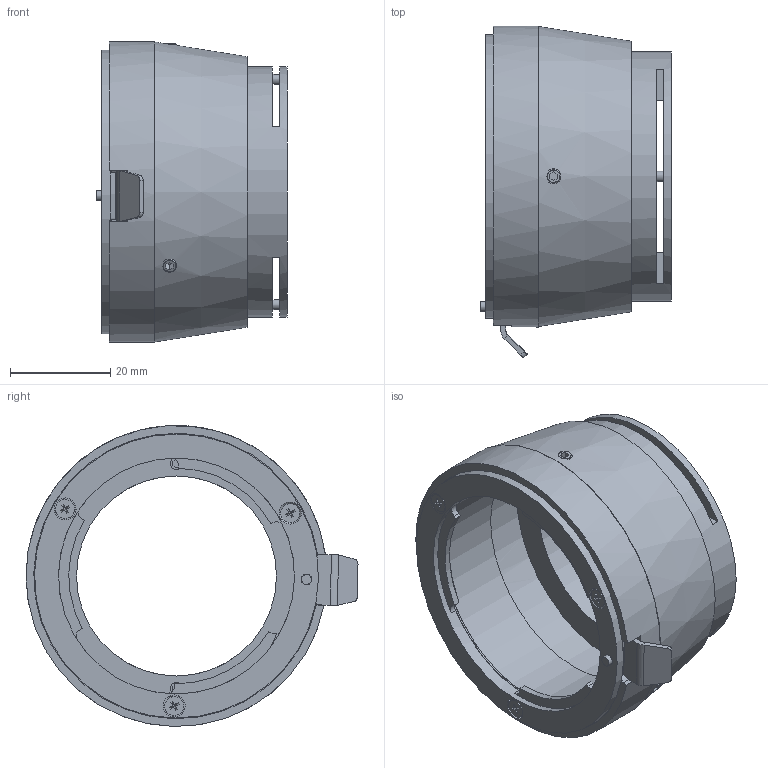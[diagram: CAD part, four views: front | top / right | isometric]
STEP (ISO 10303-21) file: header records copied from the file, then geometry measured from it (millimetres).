
FILE_DESCRIPTION(/* description */ ('F-Mount'),/* implementation_level */ '2;1');
FILE_NAME(/* name */ 'C:\Optronis\Inv\1200 Cyclone\1200-MG-03-A.stp',/* time_stamp */ '2021-09-15T10:49:52+02:00',/* author */ ('aba'),/* organization */ (''),/* preprocessor_version */ 'ST-DEVELOPER v18.1',/* originating_system */ 'Autodesk Inventor 2022',/* authorisation */ '');
FILE_SCHEMA (('CONFIG_CONTROL_DESIGN'));
Length unit declared in the file: millimetre
Products named in the file (12): 1200-MG-03-A; 1200-MD-09-A; Bower Adapter_22.04.2016; Bower Teil 3_22.04.2016; Bower F- Adapter_25.10.2016; Bower Teil 1_22.04.2016; Bower Teil 2_22.04.2016; Bower Teil 4_22.04.2016; Bower Teil 5_22.04.2016; 965 M2x4; 914M3x4; 915M3x8
Assembly tree (16 placements, depth 4):
  1200-MG-03-A
    1200-MD-09-A
    Bower Adapter_22.04.2016
      Bower Teil 3_22.04.2016
      Bower F- Adapter_25.10.2016
        Bower Teil 1_22.04.2016
        Bower Teil 2_22.04.2016
        Bower Teil 4_22.04.2016
        Bower Teil 5_22.04.2016
        965 M2x4  x3
    914M3x4  x3
    915M3x8  x2
Bounding box: 38 x 66.4 x 60.19 mm (x, y, z)
Volume: 27910.8 mm3; surface area: 24305.9 mm2
Topology: 14 solids, 14 shells, 338 faces, 827 edges, 538 vertices
Faces by surface type: plane 215, cylinder 75, bspline 26, cone 22
Full cylindrical faces by diameter (mm): 1.9 x3, 2 x8, 2.013 x3, 2.1 x1, 2.4 x3, 2.459 x5, 3 x7, 3.8 x3, 40 x1, 47.2 x1, 47.7 x1, 48.5 x1, 49.7 x1, 50 x1, 51.9 x2, 52.1 x1, 54.9 x1, 55 x1, 56.8 x1, 60.2 x1
Entity records: 9000 total; most frequent: CARTESIAN_POINT 1873, ORIENTED_EDGE 1352, DIRECTION 1308, EDGE_CURVE 676, LINE 456, VECTOR 456, VERTEX_POINT 447, AXIS2_PLACEMENT_3D 426
